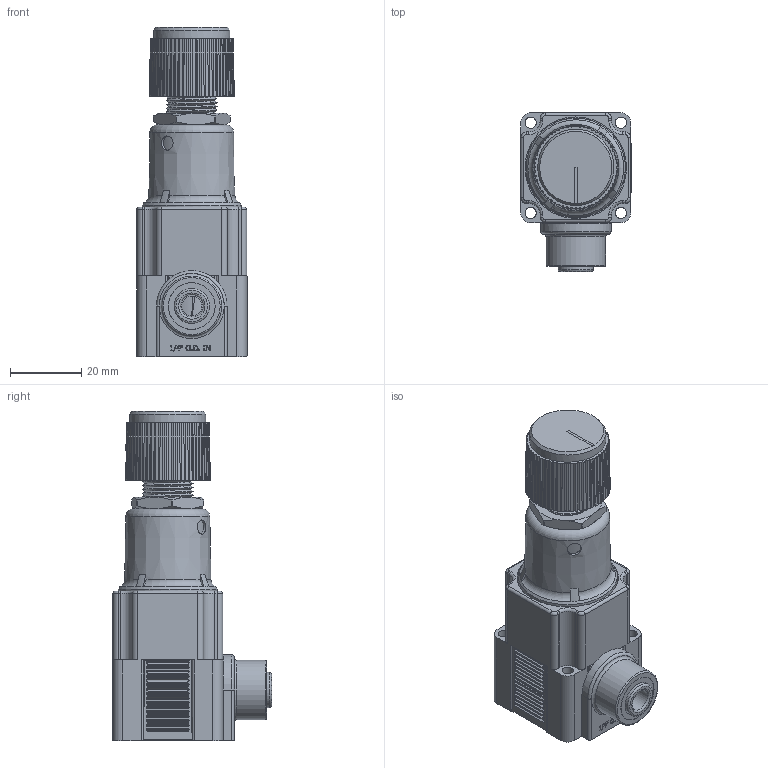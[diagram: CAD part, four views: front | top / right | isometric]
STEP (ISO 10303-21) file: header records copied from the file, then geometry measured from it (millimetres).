
FILE_DESCRIPTION(/* description */ (''),/* implementation_level */ '2;1');
FILE_NAME(/* name */ 'K:\Normteile INVENTOR\Air-Logic\Regulators\NR4000\NR 4___ 5 Push-In Fittings for 1''4 O.D. Tube In.igs.ipt.stp',/* time_stamp */ '2020-05-27T10:50:56+02:00',/* author */ ('Paul'),/* organization */ (''),/* preprocessor_version */ 'ST-DEVELOPER v18',/* originating_system */ 'Autodesk Inventor 2020',/* authorisation */ '');
FILE_SCHEMA (('AUTOMOTIVE_DESIGN { 1 0 10303 214 3 1 1 }'));
Length unit declared in the file: inch
Products named in the file (1): NR 4___ 5 Push-In Fittings for 1'4 O.D. Tube In.igs
Bounding box: 31.06 x 44.8 x 92.65 mm (x, y, z)
Volume: 57770.1 mm3; surface area: 20095 mm2
Topology: 1 solids, 1 shells, 1015 faces, 2606 edges, 1669 vertices
Faces by surface type: plane 528, cylinder 333, cone 82, bspline 46, torus 26
Full cylindrical faces by diameter (mm): 3.175 x4, 3.988 x1, 4.039 x1, 4.064 x1, 5.639 x1, 6.35 x1, 9.169 x1, 9.398 x1, 9.906 x1, 12.903 x1, 13.132 x1, 13.145 x1, 14.288 x2, 16.764 x1, 19.406 x1, 21.476 x1, 26.264 x1, 27.94 x1, 28.575 x1
Entity records: 39720 total; most frequent: CARTESIAN_POINT 13545, DIRECTION 5375, ORIENTED_EDGE 5212, EDGE_CURVE 2606, AXIS2_PLACEMENT_3D 2010, VERTEX_POINT 1669, LINE 1355, VECTOR 1355
